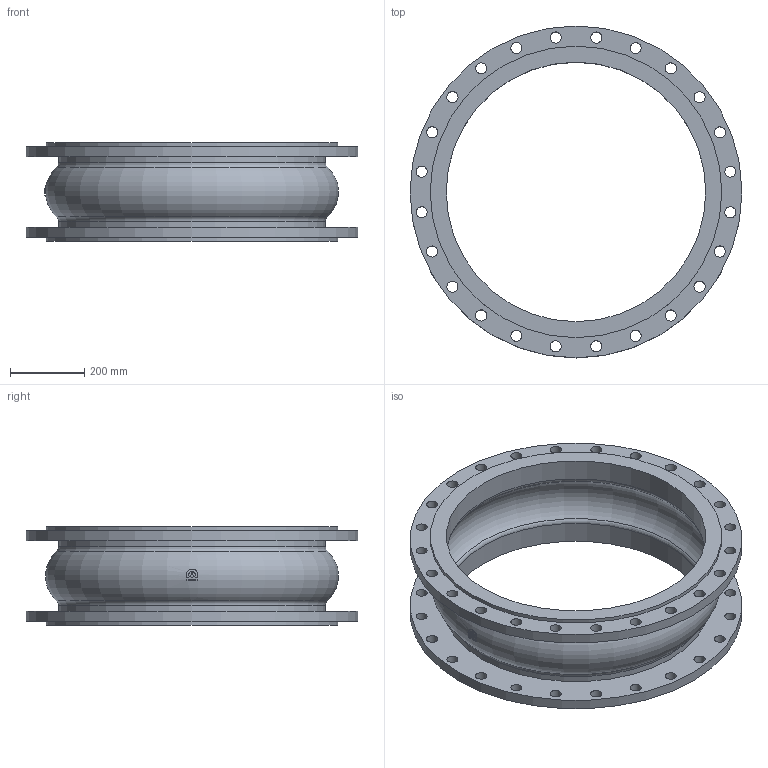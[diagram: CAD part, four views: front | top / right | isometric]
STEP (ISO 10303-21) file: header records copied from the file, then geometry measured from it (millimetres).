
FILE_DESCRIPTION(('STEP AP203'), '1');
FILE_NAME('Êîìïåíñàòîð KMS DN700 PN10', '', ('UNSPECIFIED'), ('UNSPECIFIED'), 'ASCON STEP Converter 1.6', 'ASCON Math Kernel', '');
FILE_SCHEMA(('CONFIG_CONTROL_DESIGN'));
Length unit declared in the file: millimetre
Bounding box: 895 x 895 x 265 mm (x, y, z)
Volume: 19685351.1 mm3; surface area: 2347423.2 mm2
Topology: 1 solids, 1 shells, 85 faces, 220 edges, 144 vertices
Faces by surface type: cylinder 63, plane 13, torus 9
Full cylindrical faces by diameter (mm): 30 x48, 700 x2, 720 x2, 786 x2, 895 x2
Entity records: 4242 total; most frequent: CARTESIAN_POINT 1421, DIRECTION 430, ORIENTED_EDGE 316, EDGE_LOOP 252, AXIS2_PLACEMENT_3D 208, EDGE_CURVE 158, VERTEX_POINT 144, FACE_BOUND 128
